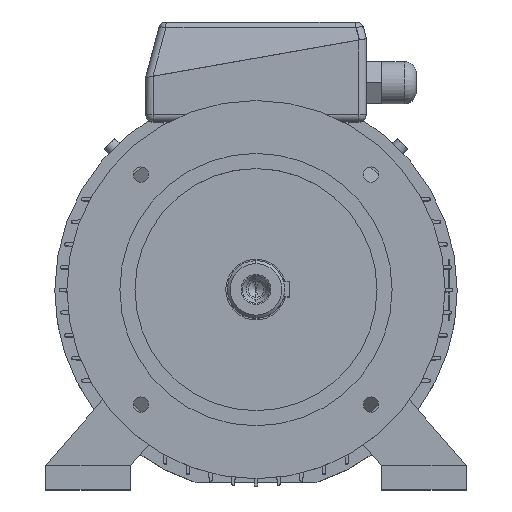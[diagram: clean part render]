
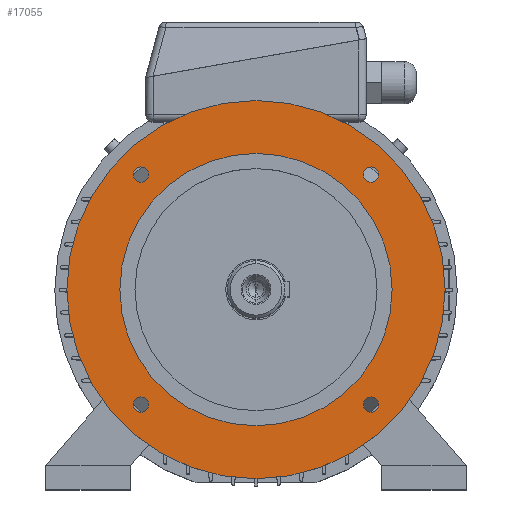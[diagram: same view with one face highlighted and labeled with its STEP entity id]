
A CAD part, top view. The second image highlights one B-rep face of the part: STEP entity #17055.
In plain terms, the highlighted planar face has unit normal (0, 0, 1).
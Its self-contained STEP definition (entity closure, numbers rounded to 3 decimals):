
#72 = CIRCLE ( 'NONE', #73, 5.1 ) ;
#73 = AXIS2_PLACEMENT_3D ( 'NONE', #74, #75, #76 ) ;
#74 = CARTESIAN_POINT ( 'NONE',  ( -76.014, 76.014, 58. ) ) ;
#75 = DIRECTION ( 'NONE',  ( 0., 0., 1. ) ) ;
#76 = DIRECTION ( 'NONE',  ( 1., 0., 0. ) ) ;
#195 = EDGE_LOOP ( 'NONE', ( #18656, #9888 ) ) ;
#16727 = VERTEX_POINT ( 'NONE', #18528 ) ;
#497 = ORIENTED_EDGE ( 'NONE', *, *, #13167, .F. ) ;
#16945 = EDGE_LOOP ( 'NONE', ( #9110, #17315 ) ) ;
#585 = EDGE_CURVE ( 'NONE', #1328, #1707, #3343, .T. ) ;
#586 = VERTEX_POINT ( 'NONE', #3354 ) ;
#17055 = ADVANCED_FACE ( 'NONE', ( #18906, #18907, #18908, #18909, #18910, #18911 ), #18912, .F. ) ;
#17081 = EDGE_LOOP ( 'NONE', ( #10510, #12783 ) ) ;
#17249 = VERTEX_POINT ( 'NONE', #19045 ) ;
#17315 = ORIENTED_EDGE ( 'NONE', *, *, #19342, .F. ) ;
#964 = CIRCLE ( 'NONE', #965, 5.1 ) ;
#965 = AXIS2_PLACEMENT_3D ( 'NONE', #966, #967, #968 ) ;
#966 = CARTESIAN_POINT ( 'NONE',  ( 76.014, 76.014, 58. ) ) ;
#967 = DIRECTION ( 'NONE',  ( 0., 0., 1. ) ) ;
#968 = DIRECTION ( 'NONE',  ( 1., 0., 0. ) ) ;
#1112 = EDGE_CURVE ( 'NONE', #3694, #16727, #3660, .T. ) ;
#1328 = VERTEX_POINT ( 'NONE', #3975 ) ;
#17715 = VERTEX_POINT ( 'NONE', #19459 ) ;
#1707 = VERTEX_POINT ( 'NONE', #4275 ) ;
#18215 = EDGE_CURVE ( 'NONE', #17249, #7106, #72, .T. ) ;
#18228 = CIRCLE ( 'NONE', #18229, 5.1 ) ;
#18229 = AXIS2_PLACEMENT_3D ( 'NONE', #18230, #18231, #18232 ) ;
#18230 = CARTESIAN_POINT ( 'NONE',  ( 76.014, 76.014, 58. ) ) ;
#18231 = DIRECTION ( 'NONE',  ( 0., 0., 1. ) ) ;
#18232 = DIRECTION ( 'NONE',  ( 1., 0., 0. ) ) ;
#1919 = ORIENTED_EDGE ( 'NONE', *, *, #585, .F. ) ;
#18528 = CARTESIAN_POINT ( 'NONE',  ( 70.914, -76.014, 58. ) ) ;
#18656 = ORIENTED_EDGE ( 'NONE', *, *, #18215, .F. ) ;
#2481 = EDGE_CURVE ( 'NONE', #1707, #1328, #6339, .T. ) ;
#18906 = FACE_BOUND ( 'NONE', #16945, .T. ) ;
#18907 = FACE_BOUND ( 'NONE', #17081, .T. ) ;
#18908 = FACE_BOUND ( 'NONE', #12623, .T. ) ;
#18909 = FACE_OUTER_BOUND ( 'NONE', #5930, .T. ) ;
#18910 = FACE_BOUND ( 'NONE', #5035, .T. ) ;
#18911 = FACE_BOUND ( 'NONE', #195, .T. ) ;
#18912 = PLANE ( 'NONE',  #18913 ) ;
#18913 = AXIS2_PLACEMENT_3D ( 'NONE', #18914, #18915, #18919 ) ;
#18914 = CARTESIAN_POINT ( 'NONE',  ( 0., 125., 58. ) ) ;
#18915 = DIRECTION ( 'NONE',  ( 0., 0., -1. ) ) ;
#18919 = DIRECTION ( 'NONE',  ( -1., 0., 0. ) ) ;
#2597 = ORIENTED_EDGE ( 'NONE', *, *, #2481, .F. ) ;
#19045 = CARTESIAN_POINT ( 'NONE',  ( -70.914, 76.014, 58. ) ) ;
#2731 = VERTEX_POINT ( 'NONE', #7148 ) ;
#2898 = EDGE_CURVE ( 'NONE', #2731, #6328, #7228, .T. ) ;
#19342 = EDGE_CURVE ( 'NONE', #17715, #5129, #964, .T. ) ;
#19459 = CARTESIAN_POINT ( 'NONE',  ( 70.914, 76.014, 58. ) ) ;
#3343 = CIRCLE ( 'NONE', #3344, 90. ) ;
#3344 = AXIS2_PLACEMENT_3D ( 'NONE', #3345, #3346, #3353 ) ;
#3345 = CARTESIAN_POINT ( 'NONE',  ( 0., 0., 58. ) ) ;
#3346 = DIRECTION ( 'NONE',  ( 0., 0., 1. ) ) ;
#3349 = EDGE_CURVE ( 'NONE', #586, #4088, #8250, .T. ) ;
#3353 = DIRECTION ( 'NONE',  ( 1., 0., 0. ) ) ;
#3354 = CARTESIAN_POINT ( 'NONE',  ( -81.114, -76.014, 58. ) ) ;
#3660 = CIRCLE ( 'NONE', #3661, 5.1 ) ;
#3661 = AXIS2_PLACEMENT_3D ( 'NONE', #3662, #3663, #3664 ) ;
#3662 = CARTESIAN_POINT ( 'NONE',  ( 76.014, -76.014, 58. ) ) ;
#3663 = DIRECTION ( 'NONE',  ( 0., 0., 1. ) ) ;
#3664 = DIRECTION ( 'NONE',  ( 1., 0., 0. ) ) ;
#3694 = VERTEX_POINT ( 'NONE', #8453 ) ;
#3975 = CARTESIAN_POINT ( 'NONE',  ( 90., 0., 58. ) ) ;
#4088 = VERTEX_POINT ( 'NONE', #8701 ) ;
#4275 = CARTESIAN_POINT ( 'NONE',  ( -90., 0., 58. ) ) ;
#4623 = ORIENTED_EDGE ( 'NONE', *, *, #1112, .F. ) ;
#5035 = EDGE_LOOP ( 'NONE', ( #4623, #497 ) ) ;
#5129 = VERTEX_POINT ( 'NONE', #9477 ) ;
#5327 = EDGE_CURVE ( 'NONE', #6328, #2731, #9559, .T. ) ;
#5328 = ORIENTED_EDGE ( 'NONE', *, *, #2898, .T. ) ;
#5751 = ORIENTED_EDGE ( 'NONE', *, *, #5327, .T. ) ;
#5930 = EDGE_LOOP ( 'NONE', ( #5328, #5751 ) ) ;
#6328 = VERTEX_POINT ( 'NONE', #10420 ) ;
#6339 = CIRCLE ( 'NONE', #6340, 90. ) ;
#6340 = AXIS2_PLACEMENT_3D ( 'NONE', #6341, #6342, #6343 ) ;
#6341 = CARTESIAN_POINT ( 'NONE',  ( 0., 0., 58. ) ) ;
#6342 = DIRECTION ( 'NONE',  ( 0., 0., 1. ) ) ;
#6343 = DIRECTION ( 'NONE',  ( 1., 0., 0. ) ) ;
#7106 = VERTEX_POINT ( 'NONE', #10867 ) ;
#7148 = CARTESIAN_POINT ( 'NONE',  ( 125., 0., 58. ) ) ;
#7228 = CIRCLE ( 'NONE', #7229, 125. ) ;
#7229 = AXIS2_PLACEMENT_3D ( 'NONE', #7230, #7231, #7232 ) ;
#7230 = CARTESIAN_POINT ( 'NONE',  ( 0., 0., 58. ) ) ;
#7231 = DIRECTION ( 'NONE',  ( 0., 0., 1. ) ) ;
#7232 = DIRECTION ( 'NONE',  ( 1., 0., 0. ) ) ;
#8250 = CIRCLE ( 'NONE', #8251, 5.1 ) ;
#8251 = AXIS2_PLACEMENT_3D ( 'NONE', #8252, #8253, #8254 ) ;
#8252 = CARTESIAN_POINT ( 'NONE',  ( -76.014, -76.014, 58. ) ) ;
#8253 = DIRECTION ( 'NONE',  ( 0., 0., 1. ) ) ;
#8254 = DIRECTION ( 'NONE',  ( 1., 0., 0. ) ) ;
#8453 = CARTESIAN_POINT ( 'NONE',  ( 81.114, -76.014, 58. ) ) ;
#8701 = CARTESIAN_POINT ( 'NONE',  ( -70.914, -76.014, 58. ) ) ;
#9110 = ORIENTED_EDGE ( 'NONE', *, *, #16318, .F. ) ;
#9477 = CARTESIAN_POINT ( 'NONE',  ( 81.114, 76.014, 58. ) ) ;
#9559 = CIRCLE ( 'NONE', #9560, 125. ) ;
#9560 = AXIS2_PLACEMENT_3D ( 'NONE', #9561, #9562, #9563 ) ;
#9561 = CARTESIAN_POINT ( 'NONE',  ( 0., 0., 58. ) ) ;
#9562 = DIRECTION ( 'NONE',  ( 0., 0., 1. ) ) ;
#9563 = DIRECTION ( 'NONE',  ( 1., 0., 0. ) ) ;
#9888 = ORIENTED_EDGE ( 'NONE', *, *, #13821, .F. ) ;
#10420 = CARTESIAN_POINT ( 'NONE',  ( -125., 0., 58. ) ) ;
#10510 = ORIENTED_EDGE ( 'NONE', *, *, #13368, .F. ) ;
#10867 = CARTESIAN_POINT ( 'NONE',  ( -81.114, 76.014, 58. ) ) ;
#12623 = EDGE_LOOP ( 'NONE', ( #1919, #2597 ) ) ;
#12783 = ORIENTED_EDGE ( 'NONE', *, *, #3349, .F. ) ;
#13167 = EDGE_CURVE ( 'NONE', #16727, #3694, #15551, .T. ) ;
#13368 = EDGE_CURVE ( 'NONE', #4088, #586, #15922, .T. ) ;
#13821 = EDGE_CURVE ( 'NONE', #7106, #17249, #16265, .T. ) ;
#15551 = CIRCLE ( 'NONE', #15559, 5.1 ) ;
#15559 = AXIS2_PLACEMENT_3D ( 'NONE', #15560, #15561, #15562 ) ;
#15560 = CARTESIAN_POINT ( 'NONE',  ( 76.014, -76.014, 58. ) ) ;
#15561 = DIRECTION ( 'NONE',  ( 0., 0., 1. ) ) ;
#15562 = DIRECTION ( 'NONE',  ( 1., 0., 0. ) ) ;
#15922 = CIRCLE ( 'NONE', #15923, 5.1 ) ;
#15923 = AXIS2_PLACEMENT_3D ( 'NONE', #15924, #15925, #15926 ) ;
#15924 = CARTESIAN_POINT ( 'NONE',  ( -76.014, -76.014, 58. ) ) ;
#15925 = DIRECTION ( 'NONE',  ( 0., 0., 1. ) ) ;
#15926 = DIRECTION ( 'NONE',  ( 1., 0., 0. ) ) ;
#16265 = CIRCLE ( 'NONE', #16266, 5.1 ) ;
#16266 = AXIS2_PLACEMENT_3D ( 'NONE', #16267, #16268, #16269 ) ;
#16267 = CARTESIAN_POINT ( 'NONE',  ( -76.014, 76.014, 58. ) ) ;
#16268 = DIRECTION ( 'NONE',  ( 0., 0., 1. ) ) ;
#16269 = DIRECTION ( 'NONE',  ( 1., 0., 0. ) ) ;
#16318 = EDGE_CURVE ( 'NONE', #5129, #17715, #18228, .T. ) ;
